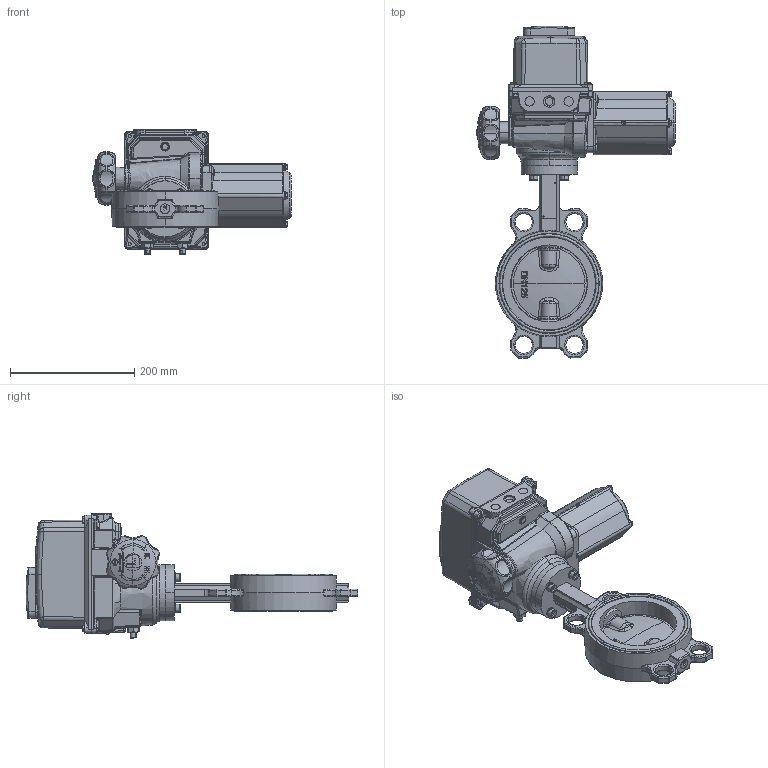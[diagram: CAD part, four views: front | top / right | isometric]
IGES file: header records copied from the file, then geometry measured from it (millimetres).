
Start section: SolidWorks IGES file using NURBS representation for surfaces
Global section: file name: H:\BE BIBLIOTHEQUE 3D\Projet_Biblio3D_2016\FSK\VPI\VPI-B04\VPI-B04 DN125.Igs; native system: SolidWorks 2014; preprocessor: SolidWorks 2014; author: a.cartier; date: 160929.164031; units: millimetre
Bounding box: 319.25 x 534.7 x 199.8 mm (x, y, z)
Volume: 5885348.9 mm3; surface area: 426791.4 mm2
Topology: 14 solids, 14 shells, 2542 faces, 6619 edges, 4061 vertices
Faces by surface type: bspline 2542
